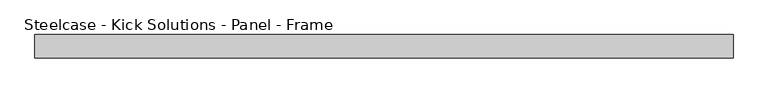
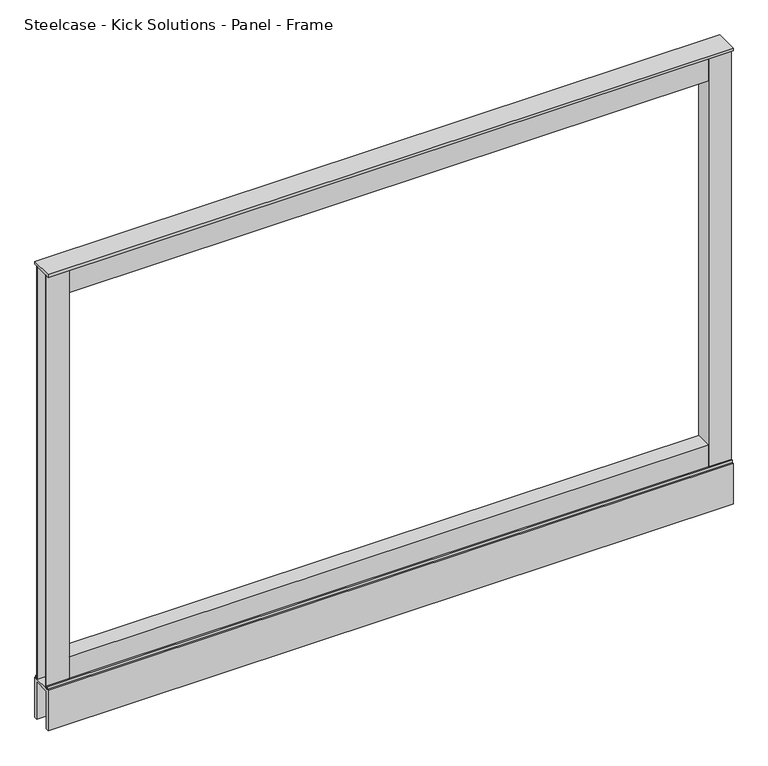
"""IFC4 building model written with IfcOpenShell, lengths in millimetres: furniture geometry, Steelcase - Kick Solutions - Panel - Frame : 42H x 60W."""

from ifc_helpers import new_model, si_unit, frame, origin, place, context, project, spatial, polyline, outline, extrude, source, transform, mapped, element, save


def steelcase_kick_solutions_panel_frame_4dd3eba3(model_context):
    return source(origin(), model_context, "Body", "SweptSolid", [
        extrude(outline(polyline([(50.8006646, 6.3506854), (50.8006646, -31.7493123), (0.0, -31.7493123), (0.0, -29.2093123), (48.2606646, -29.2093123), (48.2606646, 3.8106854), (0.0, 3.8106854), (0.0, 6.3506854), (50.8006646, 6.3506854)])), frame((0.0, 0.0, 95.25), z_axis=(0.0, 0.0, 1.0), x_axis=(1.0, 0.0, 0.0)), (0.0, 0.0, 1.0), 971.55),
        extrude(outline(polyline([(1473.2006661, 6.3506854), (1524.0, 6.3506854), (1524.0, 3.8106854), (1475.7393354, 3.8106854), (1475.7393354, -29.2093123), (1524.0, -29.2093123), (1524.0, -31.7493123), (1473.2006661, -31.7493123), (1473.2006661, 6.3506854)])), frame((0.0, 0.0, 95.25), z_axis=(0.0, 0.0, 1.0), x_axis=(1.0, 0.0, 0.0)), (0.0, 0.0, 1.0), 971.55),
        extrude(outline(polyline([(6.3506854, 101.600003), (9.5256855, 101.600003), (9.5256855, 95.25), (8.409661, 95.25), (8.409661, 100.2902081), (6.3506854, 100.2902081), (6.3506854, 101.600003)])), frame((0.0, 0.0, 0.0), z_axis=(1.0, 0.0, 0.0), x_axis=(0.0, 1.0, 0.0)), (0.0, 0.0, 1.0), 1524.0),
        extrude(outline(polyline([(-34.9243138, 101.600003), (-31.7493123, 101.600003), (-31.7493123, 100.2902081), (-33.8479845, 100.2902081), (-33.8479845, 95.25), (-34.9243138, 95.25), (-34.9243138, 101.600003)])), frame((0.0, 0.0, 0.0), z_axis=(1.0, 0.0, 0.0), x_axis=(0.0, 1.0, 0.0)), (0.0, 0.0, 1.0), 1524.0),
        extrude(outline(polyline([(1473.2006661, -31.7493123), (50.8006646, -31.7493123), (50.8006646, 6.3506854), (1473.2006661, 6.3506854), (1473.2006661, -31.7493123)])), frame((0.0, 0.0, 1009.6500242), z_axis=(0.0, 0.0, 1.0), x_axis=(1.0, 0.0, 0.0)), (0.0, 0.0, 1.0), 57.1499758),
        extrude(outline(polyline([(1473.2006661, -31.7493123), (50.8006646, -31.7493123), (50.8006646, 6.3506854), (1473.2006661, 6.3506854), (1473.2006661, -31.7493123)])), frame((0.0, 0.0, 95.25), z_axis=(0.0, 0.0, 1.0), x_axis=(1.0, 0.0, 0.0)), (0.0, 0.0, 1.0), 57.15),
        extrude(outline(polyline([(1524.0, 12.7000004), (1524.0, -38.1000011), (0.0, -38.1000011), (0.0, 12.7000004), (1524.0, 12.7000004)])), frame((0.0, 0.0, 1066.8), z_axis=(0.0, 0.0, 1.0), x_axis=(1.0, 0.0, 0.0)), (0.0, 0.0, 1.0), 6.35),
        extrude(outline(polyline([(-38.1000011, 95.25), (12.7000004, 95.25), (12.7000004, 0.0), (6.3506854, 0.0), (6.3506854, 88.9), (-31.7493123, 88.9), (-31.7493123, 0.0), (-38.1000011, 0.0), (-38.1000011, 95.25)])), frame((0.0, 0.0, 0.0), z_axis=(1.0, 0.0, 0.0), x_axis=(0.0, 1.0, 0.0)), (0.0, 0.0, 1.0), 1524.0),
    ])


if __name__ == "__main__":
    model = new_model("IFC4")
    model_context = context("Model", 3, world=origin())
    ifc_project = project(units=[si_unit("LENGTHUNIT", "METRE", prefix="MILLI")], contexts=[model_context])
    site = spatial("IfcSite", under=ifc_project)
    building = spatial("IfcBuilding", under=site)
    placement = place(None, origin())
    steelcase_kick_solutions_panel_frame_shape = steelcase_kick_solutions_panel_frame_4dd3eba3(model_context)
    element("IfcFurniture", 1, ObjectType="Steelcase - Kick Solutions - Panel - Frame : 42H x 60W", at=placement, inside=building, context=model_context, shape_type="MappedRepresentation", body=[
        mapped(steelcase_kick_solutions_panel_frame_shape, transform((0.0, 0.0, 0.0), x_axis=(1.0, 0.0, 0.0), y_axis=(0.0, 1.0, 0.0), z_axis=(0.0, 0.0, 1.0))),
    ])
    save(model, "model.ifc")
